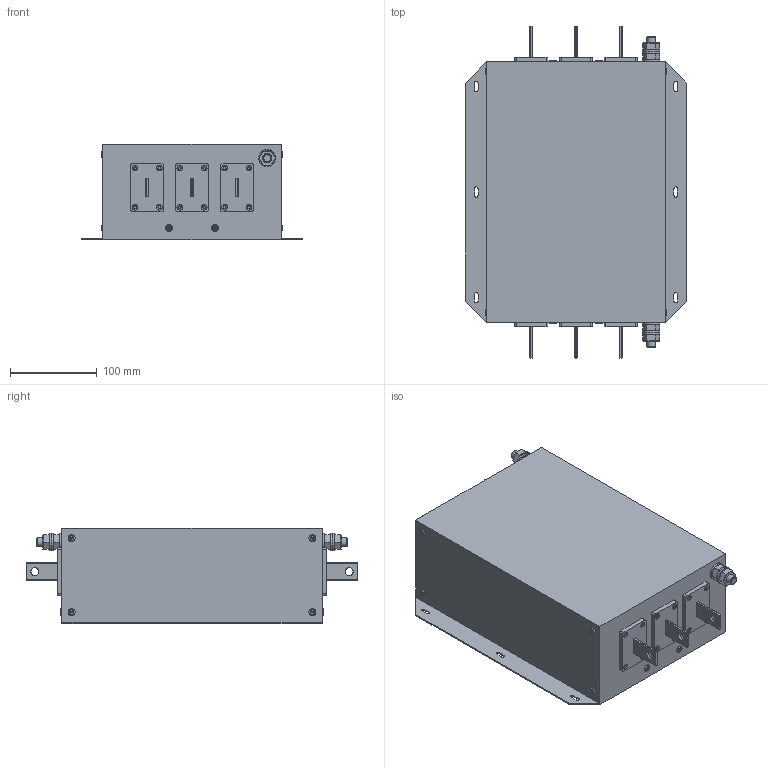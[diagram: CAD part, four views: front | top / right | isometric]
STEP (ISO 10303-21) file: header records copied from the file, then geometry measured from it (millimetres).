
FILE_DESCRIPTION(('STEP AP203'), '1');
FILE_NAME('IEF-220_425-4 捘', '', ('UNSPECIFIED'), ('UNSPECIFIED'), 'C3D Converter', 'C3D Toolkit', '');
FILE_SCHEMA(('CONFIG_CONTROL_DESIGN'));
Length unit declared in the file: millimetre
Products named in the file (8): IEF-220_425-4; IEF-160_220-4
Assembly tree (31 placements, depth 3):
  IEF-220_425-4
    IEF-220_425-4
    IEF-220_425-4  x6
      IEF-160_220-4
      IEF-220_425-4
    IEF-220_425-4  x6
    IEF-220_425-4  x4
    IEF-220_425-4  x12
Bounding box: 254 x 382 x 110 mm (x, y, z)
Volume: 6871865.1 mm3; surface area: 316384 mm2
Topology: 35 solids, 35 shells, 526 faces, 1072 edges, 654 vertices
Faces by surface type: plane 300, cylinder 156, torus 36, sphere 24, cone 8, bspline 2
Full cylindrical faces by diameter (mm): 2 x12, 3 x36, 9 x6, 10 x12, 20 x6
Entity records: 5128 total; most frequent: CARTESIAN_POINT 802, DIRECTION 654, ORIENTED_EDGE 512, EDGE_CURVE 256, AXIS2_PLACEMENT_3D 242, EDGE_LOOP 180, VERTEX_POINT 174, LINE 170
